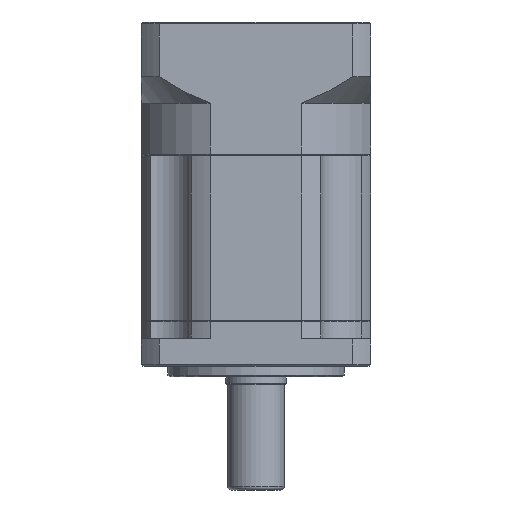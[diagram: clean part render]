
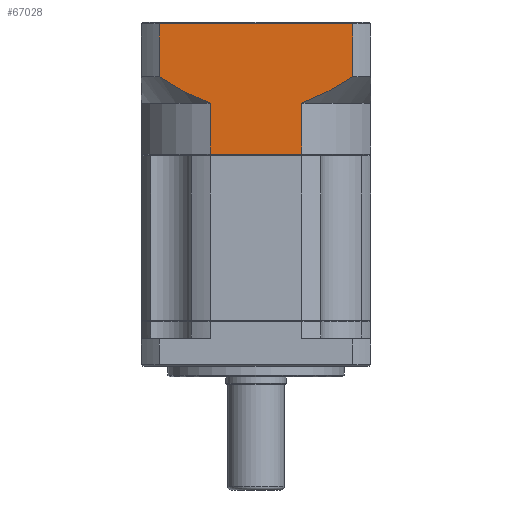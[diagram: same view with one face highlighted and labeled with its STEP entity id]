
A CAD part, front view. The second image highlights one B-rep face of the part: STEP entity #67028.
In plain terms, the highlighted planar face has unit normal (0, -1, 0).
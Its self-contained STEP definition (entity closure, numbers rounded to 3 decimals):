
#1000 = LINE ( 'NONE', #92636, #6955 ) ;
#2324 = CARTESIAN_POINT ( 'NONE',  ( -4.406, -29.081, 163.108 ) ) ;
#2601 = VERTEX_POINT ( 'NONE', #36720 ) ;
#3714 = FACE_OUTER_BOUND ( 'NONE', #111529, .T. ) ;
#4055 = VECTOR ( 'NONE', #80183, 1000. ) ;
#6640 = ORIENTED_EDGE ( 'NONE', *, *, #74851, .F. ) ;
#6955 = VECTOR ( 'NONE', #35875, 1000. ) ;
#7649 = VECTOR ( 'NONE', #97452, 1000. ) ;
#9934 = CARTESIAN_POINT ( 'NONE',  ( -13.811, -29.081, 157.695 ) ) ;
#13083 = CARTESIAN_POINT ( 'NONE',  ( -47.948, -29.081, 156.898 ) ) ;
#16344 = EDGE_CURVE ( 'NONE', #62810, #109576, #54699, .T. ) ;
#16489 = ORIENTED_EDGE ( 'NONE', *, *, #48794, .F. ) ;
#21126 = VECTOR ( 'NONE', #40784, 1000. ) ;
#22305 = CARTESIAN_POINT ( 'NONE',  ( -59.178, -29.081, 163.108 ) ) ;
#29064 = VECTOR ( 'NONE', #50867, 1000. ) ;
#30701 = CARTESIAN_POINT ( 'NONE',  ( -18.802, -29.081, 155.608 ) ) ;
#35875 = DIRECTION ( 'NONE',  ( 0., 0., -1. ) ) ;
#36720 = CARTESIAN_POINT ( 'NONE',  ( -59.178, -29.081, 163.108 ) ) ;
#36732 = ORIENTED_EDGE ( 'NONE', *, *, #119198, .F. ) ;
#37423 = CARTESIAN_POINT ( 'NONE',  ( -6.696, -29.081, 161.659 ) ) ;
#40325 = CARTESIAN_POINT ( 'NONE',  ( -9.032, -29.081, 160.274 ) ) ;
#40702 = CARTESIAN_POINT ( 'NONE',  ( 0.708, -29.081, 141.196 ) ) ;
#40784 = DIRECTION ( 'NONE',  ( 0., 0., 1. ) ) ;
#43072 = CARTESIAN_POINT ( 'NONE',  ( -45.425, -29.081, 155.846 ) ) ;
#45009 = VERTEX_POINT ( 'NONE', #101499 ) ;
#46435 = LINE ( 'NONE', #97965, #21126 ) ;
#46662 = EDGE_CURVE ( 'NONE', #96468, #45009, #84957, .T. ) ;
#48794 = EDGE_CURVE ( 'NONE', #2601, #45009, #88810, .T. ) ;
#49560 = PLANE ( 'NONE',  #121228 ) ;
#50867 = DIRECTION ( 'NONE',  ( 0., 0., 1. ) ) ;
#51703 = CARTESIAN_POINT ( 'NONE',  ( -59.178, -29.081, 160.608 ) ) ;
#54699 = LINE ( 'NONE', #61818, #4055 ) ;
#55349 = LINE ( 'NONE', #40702, #7649 ) ;
#55682 = CARTESIAN_POINT ( 'NONE',  ( -18.802, -29.081, 141.196 ) ) ;
#56361 = CARTESIAN_POINT ( 'NONE',  ( -59.178, -29.081, 178.108 ) ) ;
#58058 = ORIENTED_EDGE ( 'NONE', *, *, #62443, .T. ) ;
#59117 = DIRECTION ( 'NONE',  ( 0., 1., 0. ) ) ;
#59517 = CARTESIAN_POINT ( 'NONE',  ( -16.263, -29.081, 156.55 ) ) ;
#61145 = VERTEX_POINT ( 'NONE', #80027 ) ;
#61818 = CARTESIAN_POINT ( 'NONE',  ( -18.802, -29.081, 155.608 ) ) ;
#61935 = ORIENTED_EDGE ( 'NONE', *, *, #16344, .F. ) ;
#62220 = CARTESIAN_POINT ( 'NONE',  ( -51.014, -29.081, 158.353 ) ) ;
#62443 = EDGE_CURVE ( 'NONE', #61145, #109576, #55349, .T. ) ;
#62810 = VERTEX_POINT ( 'NONE', #123660 ) ;
#64650 = VERTEX_POINT ( 'NONE', #2324 ) ;
#64815 = CARTESIAN_POINT ( 'NONE',  ( -44.783, -29.081, 155.608 ) ) ;
#67028 = ADVANCED_FACE ( 'NONE', ( #3714 ), #49560, .F. ) ;
#69936 = CARTESIAN_POINT ( 'NONE',  ( 0.708, -29.081, 178.608 ) ) ;
#74690 = DIRECTION ( 'NONE',  ( -1., 0., 0. ) ) ;
#74851 = EDGE_CURVE ( 'NONE', #61145, #97776, #46435, .T. ) ;
#77348 = CARTESIAN_POINT ( 'NONE',  ( -4.406, -29.081, 178.108 ) ) ;
#80027 = CARTESIAN_POINT ( 'NONE',  ( -44.783, -29.081, 141.196 ) ) ;
#80183 = DIRECTION ( 'NONE',  ( 0., 0., -1. ) ) ;
#81567 = B_SPLINE_CURVE_WITH_KNOTS ( 'NONE', 3,
 ( #114595, #87884, #37423, #40325, #113788, #9934, #59517, #30701 ),
 .UNSPECIFIED., .F., .F.,
 ( 4, 2, 2, 4 ),
 ( 0.059, 0.063, 0.067, 0.075 ),
 .UNSPECIFIED. ) ;
#84957 = LINE ( 'NONE', #56361, #107320 ) ;
#87884 = CARTESIAN_POINT ( 'NONE',  ( -5.545, -29.081, 162.374 ) ) ;
#88810 = LINE ( 'NONE', #51703, #29064 ) ;
#89367 = CARTESIAN_POINT ( 'NONE',  ( -54.595, -29.081, 160.258 ) ) ;
#89776 = CARTESIAN_POINT ( 'NONE',  ( -56.909, -29.081, 161.646 ) ) ;
#92636 = CARTESIAN_POINT ( 'NONE',  ( -4.406, -29.081, 160.608 ) ) ;
#96468 = VERTEX_POINT ( 'NONE', #77348 ) ;
#96902 = ORIENTED_EDGE ( 'NONE', *, *, #46662, .T. ) ;
#97452 = DIRECTION ( 'NONE',  ( 1., 0., 0. ) ) ;
#97494 = DIRECTION ( 'NONE',  ( -1., 0., 0. ) ) ;
#97776 = VERTEX_POINT ( 'NONE', #64815 ) ;
#97965 = CARTESIAN_POINT ( 'NONE',  ( -44.783, -29.081, 155.608 ) ) ;
#99401 = CARTESIAN_POINT ( 'NONE',  ( -49.802, -29.081, 157.748 ) ) ;
#101499 = CARTESIAN_POINT ( 'NONE',  ( -59.178, -29.081, 178.108 ) ) ;
#101890 = ORIENTED_EDGE ( 'NONE', *, *, #111644, .F. ) ;
#107320 = VECTOR ( 'NONE', #74690, 1000. ) ;
#109576 = VERTEX_POINT ( 'NONE', #55682 ) ;
#109818 = CARTESIAN_POINT ( 'NONE',  ( -47.325, -29.081, 156.624 ) ) ;
#110437 = B_SPLINE_CURVE_WITH_KNOTS ( 'NONE', 3,
 ( #116912, #43072, #118981, #109818, #13083, #99401, #62220, #89367, #89776, #22305 ),
 .UNSPECIFIED., .F., .F.,
 ( 4, 2, 2, 2, 4 ),
 ( 0.101, 0.104, 0.106, 0.11, 0.118 ),
 .UNSPECIFIED. ) ;
#111047 = EDGE_CURVE ( 'NONE', #64650, #62810, #81567, .T. ) ;
#111529 = EDGE_LOOP ( 'NONE', ( #36732, #96902, #16489, #101890, #6640, #58058, #61935, #117713 ) ) ;
#111644 = EDGE_CURVE ( 'NONE', #97776, #2601, #110437, .T. ) ;
#113788 = CARTESIAN_POINT ( 'NONE',  ( -10.217, -29.081, 159.604 ) ) ;
#114595 = CARTESIAN_POINT ( 'NONE',  ( -4.406, -29.081, 163.108 ) ) ;
#116912 = CARTESIAN_POINT ( 'NONE',  ( -44.783, -29.081, 155.608 ) ) ;
#117713 = ORIENTED_EDGE ( 'NONE', *, *, #111047, .F. ) ;
#118981 = CARTESIAN_POINT ( 'NONE',  ( -46.064, -29.081, 156.099 ) ) ;
#119198 = EDGE_CURVE ( 'NONE', #96468, #64650, #1000, .T. ) ;
#121228 = AXIS2_PLACEMENT_3D ( 'NONE', #69936, #59117, #97494 ) ;
#123660 = CARTESIAN_POINT ( 'NONE',  ( -18.802, -29.081, 155.608 ) ) ;
